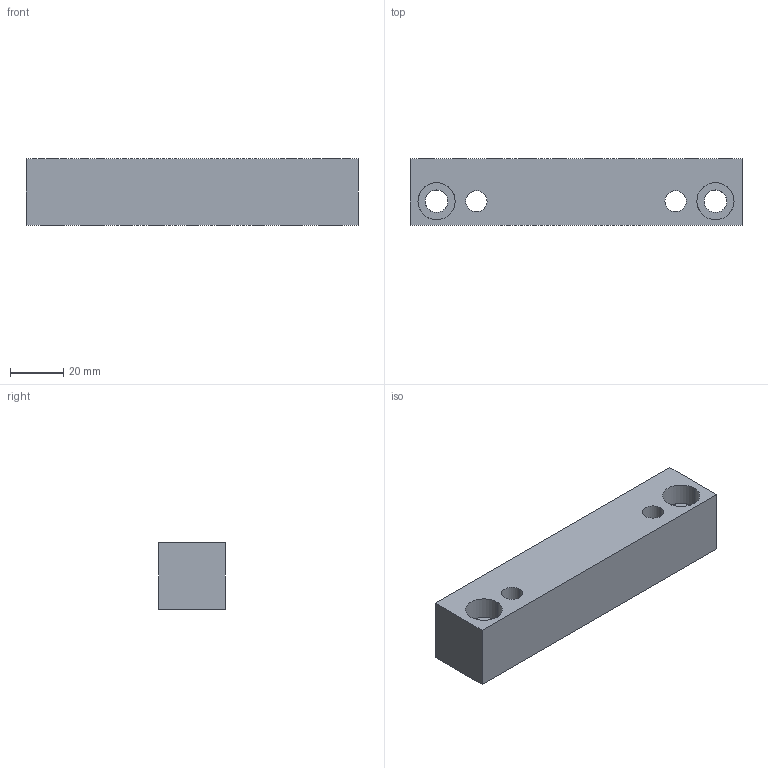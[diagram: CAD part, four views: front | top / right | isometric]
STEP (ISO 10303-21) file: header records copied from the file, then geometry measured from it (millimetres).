
FILE_DESCRIPTION(('CATIA V5 STEP Exchange'),'2;1');
FILE_NAME('C:\Users\Utente\Desktop\3D files G405\G40530125.stp','2020-04-22T09:16:49+00:00',('none'),('none'),'CATIA Version 5 Release 20 GA (IN-10)','CATIA V5 STEP AP203','none');
FILE_SCHEMA(('CONFIG_CONTROL_DESIGN'));
Length unit declared in the file: millimetre
Products named in the file (1): G40530125
Bounding box: 125 x 25 x 25 mm (x, y, z)
Surface area: 19496.2 mm2 (no closed solid volume)
Topology: 0 solids, 386 shells, 386 faces, 1656 edges, 1480 vertices
Faces by surface type: revolution 212, cylinder 128, plane 46
Entity records: 18260 total; most frequent: CARTESIAN_POINT 5993, DIRECTION 1934, ORIENTED_EDGE 1480, EDGE_CURVE 1480, VERTEX_POINT 1480, AXIS2_PLACEMENT_3D 845, VECTOR 704, LINE 704
